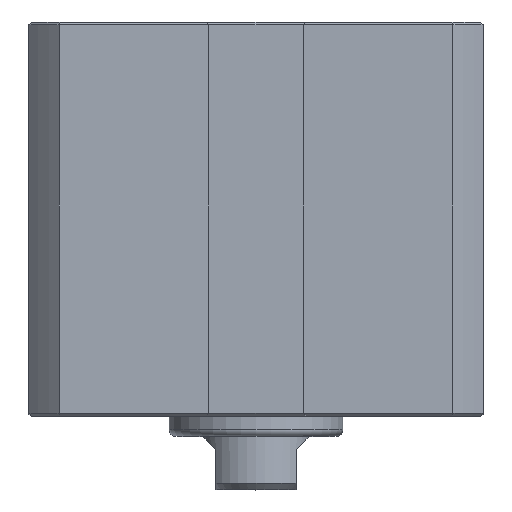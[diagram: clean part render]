
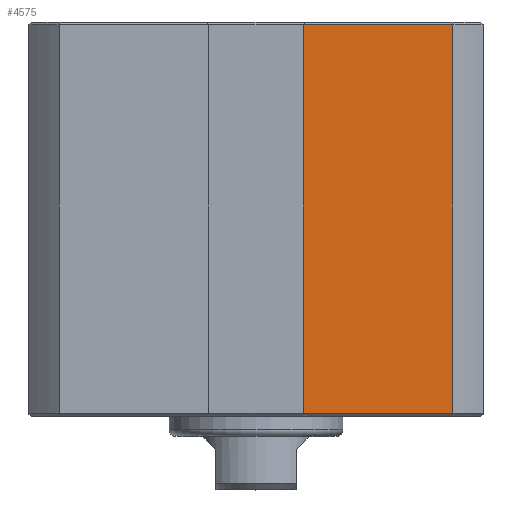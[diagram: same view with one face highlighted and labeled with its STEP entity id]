
A CAD part, top view. The second image highlights one B-rep face of the part: STEP entity #4575.
In plain terms, the highlighted planar face has unit normal (0, 0, 1).
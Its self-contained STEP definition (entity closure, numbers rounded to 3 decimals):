
#99=PLANE('',#4854);
#513=ORIENTED_EDGE('',*,*,#1310,.F.);
#514=ORIENTED_EDGE('',*,*,#1311,.T.);
#515=ORIENTED_EDGE('',*,*,#1307,.T.);
#516=ORIENTED_EDGE('',*,*,#1312,.T.);
#1307=EDGE_CURVE('',#1720,#1721,#1940,.T.);
#1310=EDGE_CURVE('',#1722,#1723,#1943,.T.);
#1311=EDGE_CURVE('',#1722,#1720,#1944,.T.);
#1312=EDGE_CURVE('',#1721,#1723,#1945,.T.);
#1720=VERTEX_POINT('',#6333);
#1721=VERTEX_POINT('',#6334);
#1722=VERTEX_POINT('',#6339);
#1723=VERTEX_POINT('',#6340);
#1940=LINE('',#6332,#2208);
#1943=LINE('',#6338,#2211);
#1944=LINE('',#6341,#2212);
#1945=LINE('',#6342,#2213);
#2208=VECTOR('',#5371,1000.);
#2211=VECTOR('',#5376,1000.);
#2212=VECTOR('',#5377,1000.);
#2213=VECTOR('',#5378,1000.);
#2505=EDGE_LOOP('',(#513,#514,#515,#516));
#2789=FACE_BOUND('',#2505,.T.);
#4575=ADVANCED_FACE('',(#2789),#99,.T.);
#4854=AXIS2_PLACEMENT_3D('',#6337,#5374,#5375);
#5371=DIRECTION('',(0.,-1.,0.));
#5374=DIRECTION('',(0.,0.,1.));
#5375=DIRECTION('',(1.,0.,0.));
#5376=DIRECTION('',(0.,-1.,0.));
#5377=DIRECTION('',(-1.,0.,0.));
#5378=DIRECTION('',(1.,0.,0.));
#6332=CARTESIAN_POINT('',(3.55,29.5,16.997));
#6333=CARTESIAN_POINT('',(3.55,29.3,16.997));
#6334=CARTESIAN_POINT('',(3.55,0.2,16.997));
#6337=CARTESIAN_POINT('',(3.55,29.5,16.997));
#6338=CARTESIAN_POINT('',(14.741,29.5,16.997));
#6339=CARTESIAN_POINT('',(14.741,29.3,16.997));
#6340=CARTESIAN_POINT('',(14.741,0.2,16.997));
#6341=CARTESIAN_POINT('',(3.55,29.3,16.997));
#6342=CARTESIAN_POINT('',(3.55,0.2,16.997));
